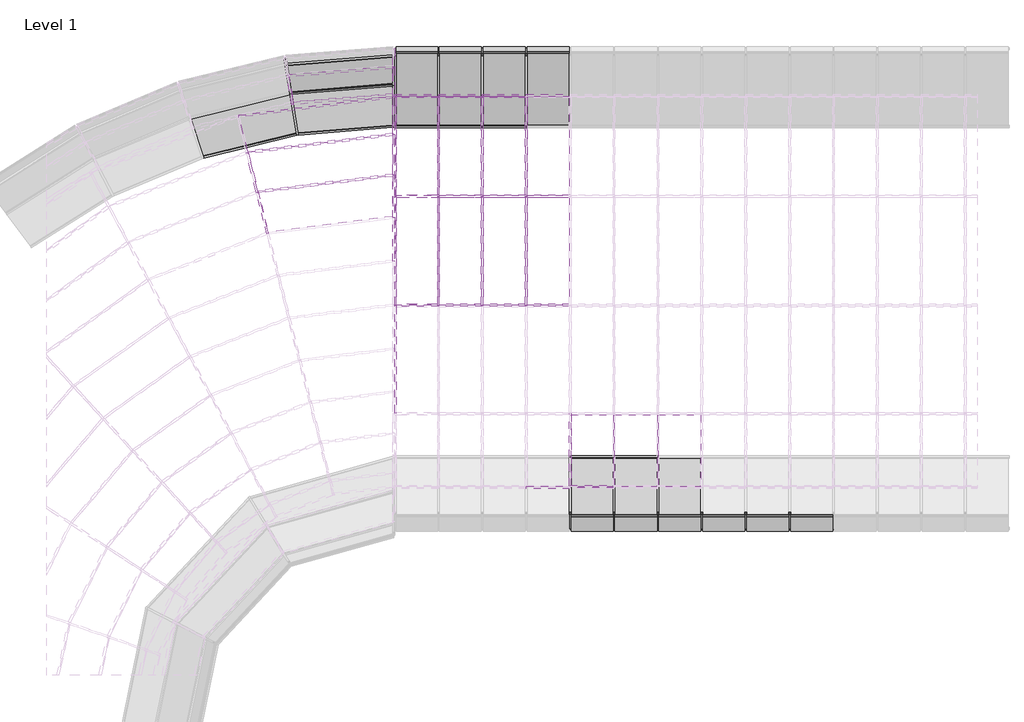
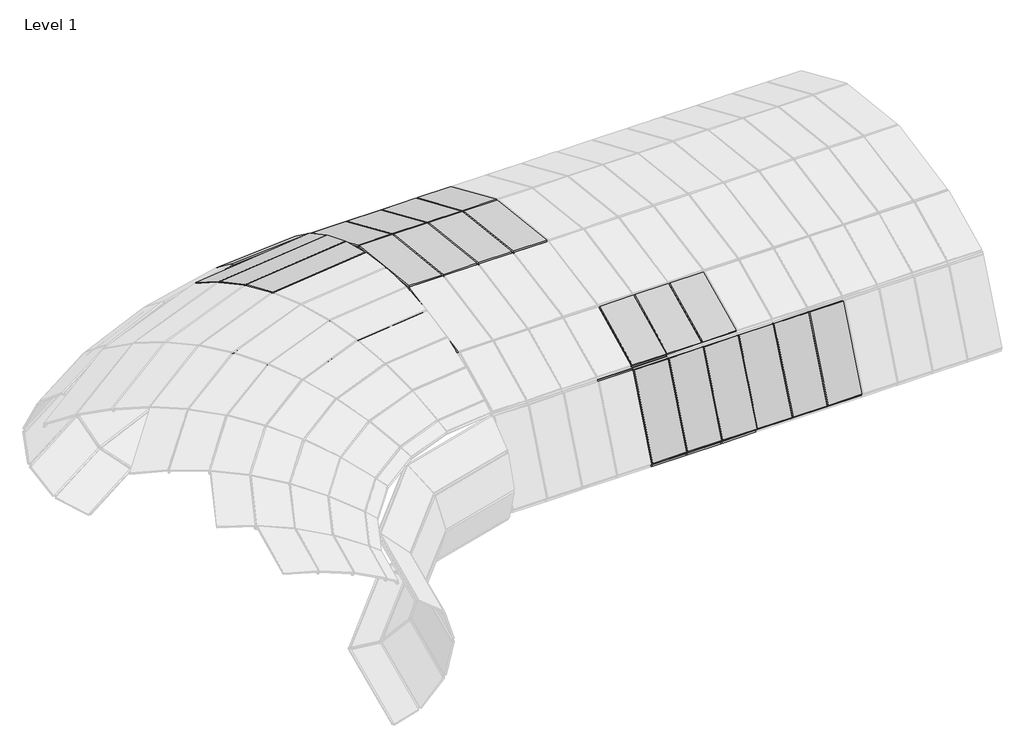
# One storey, part 17 of 23: 73 members, 35 plates.
"""IFC4 building model written with IfcOpenShell, lengths in millimetres."""

from ifc_helpers import new_model, si_unit, origin, place, context, project, spatial, transform, mapped, element, save
from components import member_d6b8231b, member_8c9da58c, member_01ebdf2a, member_0cd36c09, member_ca6af547, member_e3cda178, member_5c7fdabc, member_b799f41d, member_12ee2c91, member_00f58b5b, member_447cb305, member_9c203333, member_b8d5ad2c, member_f15ee7b7, member_0b29da72, member_7a2ca0a4, member_a86ed3bc, member_8df4d526, member_e6283771, member_0f8f75f6, member_68981e21, member_3e1f1dd8, member_42213d33, member_14e241b9, member_67cfadff, member_309acb9e, member_1d69e541, member_3d0f16ec, member_25f397f4, member_f53a45b1, system_panel_glazed_d6782710, system_panel_glazed_6d413ca7, system_panel_glazed_de08f358, system_panel_glazed_5e4e3dcc, system_panel_glazed_020edd5b, system_panel_glazed_42d38d67, system_panel_glazed_22f21378, system_panel_glazed_efc33f1d, system_panel_glazed_acb1330b, system_panel_glazed_36155e08, system_panel_glazed_4484050c, system_panel_glazed_e9ed01da, system_panel_glazed_e96a6bf3, system_panel_glazed_a8ce3bc7

model = new_model("IFC4")

# Units and contexts
model_context = context("Model", 3, world=origin())
ifc_project = project(units=[si_unit("LENGTHUNIT", "METRE", prefix="MILLI")], contexts=[model_context])

# Site, building, storey
site = spatial("IfcSite", under=ifc_project)
building = spatial("IfcBuilding", under=site)
storey = spatial("IfcBuildingStorey", under=building, Name="Level 1", Elevation=0.0)

# Members
placement = place(None, origin())
member_shape = member_d6b8231b(model_context)
element("IfcMember", 1, ObjectType="Rectangular Mullion : 1\" Square", at=placement, inside=storey, context=model_context, shape_type="MappedRepresentation", body=[
    mapped(member_shape, transform((-11262.1951697, 7003.5720267, 0.0), x_axis=(-0.9871948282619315, -0.1595191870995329, 0.0), y_axis=(-0.04471285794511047, 0.2767084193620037, -0.9599131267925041), z_axis=(0.15312456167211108, -0.9476212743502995, -0.2802976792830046))),
])
member_2_shape = member_8c9da58c(model_context)
element("IfcMember", 2, ObjectType="Rectangular Mullion : 1\" Square", at=placement, inside=storey, context=model_context, shape_type="MappedRepresentation", body=[
    mapped(member_2_shape, transform((-11355.5399025, 7581.2419556, 170.8694653), x_axis=(-0.9871948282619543, -0.15951918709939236, 0.0), y_axis=(-0.12008679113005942, 0.7431648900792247, -0.6582439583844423), z_axis=(0.10500254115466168, -0.6498150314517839, -0.7528046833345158))),
])
element("IfcMember", 3, ObjectType="Rectangular Mullion : 1\" Square", at=placement, inside=storey, context=model_context, shape_type="MappedRepresentation", body=[
    mapped(member_2_shape, transform((-11419.5494516, 7977.3691988, 629.7792003), x_axis=(-0.9871948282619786, -0.1595191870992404, 0.0), y_axis=(-0.15772138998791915, 0.9760690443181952, -0.14971033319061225), z_axis=(0.02388167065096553, -0.14779326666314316, -0.9887299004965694))),
])
member_3_shape = member_01ebdf2a(model_context)
element("IfcMember", 4, ObjectType="Rectangular Mullion : 1\" Square", at=placement, inside=storey, context=model_context, shape_type="MappedRepresentation", body=[
    mapped(member_3_shape, transform((-11394.6395168, 7823.2124528, 1789.6405438), x_axis=(-0.9871948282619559, -0.15951918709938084, 0.0), y_axis=(-0.09505110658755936, 0.5882299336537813, 0.803088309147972), z_axis=(-0.12810799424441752, 0.792804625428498, -0.5958600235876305))),
])
member_4_shape = member_0cd36c09(model_context)
element("IfcMember", 5, ObjectType="Rectangular Mullion : 1\" Square", at=placement, inside=storey, context=model_context, shape_type="MappedRepresentation", body=[
    mapped(member_4_shape, transform((-11960.0978083, 6753.8619304, 2378.3537392), x_axis=(-0.9695168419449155, -0.24502467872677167, 0.0), y_axis=(-0.09124079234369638, 0.36102275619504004, 0.9280828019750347), z_axis=(-0.2274031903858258, 0.899791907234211, -0.37237388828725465))),
])
element("IfcMember", 6, ObjectType="Rectangular Mullion : 1\" Square", at=placement, inside=storey, context=model_context, shape_type="MappedRepresentation", body=[
    mapped(member_4_shape, transform((-11821.4728235, 6205.3487837, 2605.3528615), x_axis=(-0.9695168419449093, -0.24502467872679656, 0.0), y_axis=(-0.06351674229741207, 0.25132387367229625, 0.9658167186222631), z_axis=(-0.23664893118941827, 0.9363755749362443, -0.25922589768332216))),
])
member_5_shape = member_ca6af547(model_context)
element("IfcMember", 7, ObjectType="Rectangular Mullion : 1\" Square", at=placement, inside=storey, context=model_context, shape_type="MappedRepresentation", body=[
    mapped(member_5_shape, transform((-9912.9499814, 5250.6348627, 2850.17796), x_axis=(0.9998431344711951, 0.002521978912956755, 0.017531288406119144), y_axis=(-0.017711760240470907, 0.14236774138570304, 0.9896553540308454), z_axis=(0.0, -0.9898106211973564, 0.1423900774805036))),
])
member_6_shape = member_e3cda178(model_context)
element("IfcMember", 8, ObjectType="Rectangular Mullion : 1\" Square", at=placement, inside=storey, context=model_context, shape_type="MappedRepresentation", body=[
    mapped(member_6_shape, transform((-11947.494964, 6755.4298316, 2378.3537392), x_axis=(0.11179864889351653, -0.8986414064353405, 0.424198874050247), y_axis=(-0.0523702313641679, 0.4209537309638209, 0.9055690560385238), z_axis=(-0.9923499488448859, -0.12345679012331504, 0.0))),
])
member_7_shape = member_5c7fdabc(model_context)
element("IfcMember", 9, ObjectType="Rectangular Mullion : 1\" Square", at=placement, inside=storey, context=model_context, shape_type="MappedRepresentation", body=[
    mapped(member_7_shape, transform((-11808.8699791, 6206.916685, 2605.3528615), x_axis=(0.1172140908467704, -0.9421709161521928, 0.3139662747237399), y_axis=(-0.03876126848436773, 0.31156441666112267, 0.9494341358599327), z_axis=(-0.9923499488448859, -0.12345679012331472, 0.0))),
])
member_8_shape = member_b799f41d(model_context)
element("IfcMember", 10, ObjectType="Rectangular Mullion : 1\" Square", at=placement, inside=storey, context=model_context, shape_type="MappedRepresentation", body=[
    mapped(member_8_shape, transform((-9912.9499814, 7008.5445652, 2378.3537392), x_axis=(0.9982200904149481, 0.02863946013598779, 0.052310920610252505), y_axis=(-0.05963766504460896, 0.4793696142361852, 0.8755844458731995), z_axis=(0.0, -0.8771456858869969, 0.4802243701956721))),
])
member_9_shape = member_12ee2c91(model_context)
element("IfcMember", 11, ObjectType="Rectangular Mullion : 1\" Square", at=placement, inside=storey, context=model_context, shape_type="MappedRepresentation", body=[
    mapped(member_9_shape, transform((-9912.9499814, 6442.7852891, 2605.3528615), x_axis=(0.9989286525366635, 0.017232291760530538, 0.042948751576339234), y_axis=(-0.04627685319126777, 0.371974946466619, 0.9270885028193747), z_axis=(0.0, -0.9280828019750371, 0.3723738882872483))),
])
member_10_shape = member_00f58b5b(model_context)
element("IfcMember", 12, ObjectType="Rectangular Mullion : 1\" Square", at=placement, inside=storey, context=model_context, shape_type="MappedRepresentation", body=[
    mapped(member_10_shape, transform((-9912.9499814, 5854.0234174, 2763.3769688), x_axis=(0.9994803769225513, 0.008355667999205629, 0.031131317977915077), y_axis=(-0.03223315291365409, 0.259091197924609, 0.9653148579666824), z_axis=(0.0, -0.9658167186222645, 0.25922589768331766))),
])
member_11_shape = member_447cb305(model_context)
element("IfcMember", 13, ObjectType="Rectangular Mullion : 1\" Square", at=placement, inside=storey, context=model_context, shape_type="MappedRepresentation", body=[
    mapped(member_11_shape, transform((-9938.1556701, 7540.1167728, 2085.6089632), x_axis=(-0.10809684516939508, 0.868886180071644, -0.48306508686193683), y_axis=(-0.05963766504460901, 0.4793696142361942, 0.8755844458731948), z_axis=(0.9923499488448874, 0.12345679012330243, 0.0))),
])
member_12_shape = member_9c203333(model_context)
element("IfcMember", 14, ObjectType="Rectangular Mullion : 1\" Square", at=placement, inside=storey, context=model_context, shape_type="MappedRepresentation", body=[
    mapped(member_12_shape, transform((-11274.5302395, 7000.5494364, 0.0), x_axis=(0.2284007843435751, -0.9320944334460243, -0.2811281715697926), y_axis=(-0.06690829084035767, 0.27305004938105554, -0.9596702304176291), z_axis=(0.9712653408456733, 0.2379992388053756, 0.0))),
])
member_13_shape = member_b8d5ad2c(model_context)
element("IfcMember", 15, ObjectType="Rectangular Mullion : 1\" Square", at=placement, inside=storey, context=model_context, shape_type="MappedRepresentation", body=[
    mapped(member_13_shape, transform((-11342.8806242, 7582.2581608, 170.8694653), x_axis=(-0.06753687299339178, 0.8413340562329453, 0.5362795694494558), y_axis=(-0.042911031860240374, 0.534560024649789, -0.8440404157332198), z_axis=(-0.9967935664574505, -0.08001616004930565, 0.0))),
])
member_14_shape = member_f15ee7b7(model_context)
element("IfcMember", 16, ObjectType="Rectangular Mullion : 1\" Square", at=placement, inside=storey, context=model_context, shape_type="MappedRepresentation", body=[
    mapped(member_14_shape, transform((-9938.268538, 7109.8483199, 0.0), x_axis=(0.07678912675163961, -0.956593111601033, -0.28112817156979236), y_axis=(-0.02249479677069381, 0.2802267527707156, -0.9596702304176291), z_axis=(0.9967935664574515, 0.08001616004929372, 0.0))),
])
member_15_shape = member_0b29da72(model_context)
element("IfcMember", 17, ObjectType="Rectangular Mullion : 1\" Square", at=placement, inside=storey, context=model_context, shape_type="MappedRepresentation", body=[
    mapped(member_15_shape, transform((-11406.8901733, 7978.385404, 629.7792003), x_axis=(-0.033789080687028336, 0.42092420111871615, 0.9064662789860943), y_axis=(-0.07253195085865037, 0.9035597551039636, -0.4222782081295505), z_axis=(-0.9967935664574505, -0.08001616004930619, 0.0))),
])
member_16_shape = member_7a2ca0a4(model_context)
element("IfcMember", 18, ObjectType="Rectangular Mullion : 1\" Square", at=placement, inside=storey, context=model_context, shape_type="MappedRepresentation", body=[
    mapped(member_16_shape, transform((-11381.9802385, 7824.2286581, 1789.6405438), x_axis=(0.05180238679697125, -0.6453232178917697, 0.762151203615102), y_axis=(-0.06098441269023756, 0.759707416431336, 0.647399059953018), z_axis=(-0.9967935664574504, -0.08001616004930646, 0.0))),
])
member_17_shape = member_a86ed3bc(model_context)
element("IfcMember", 19, ObjectType="Rectangular Mullion : 1\" Square", at=placement, inside=storey, context=model_context, shape_type="MappedRepresentation", body=[
    mapped(member_17_shape, transform((-9912.9499814, 7697.0437724, 170.8694653), x_axis=(0.9997469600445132, 0.006305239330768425, -0.021593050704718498), y_axis=(-0.02249479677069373, 0.28022675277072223, -0.9596702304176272), z_axis=(0.0, 0.9599131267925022, 0.2802976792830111))),
])
member_18_shape = member_8df4d526(model_context)
element("IfcMember", 20, ObjectType="Rectangular Mullion : 1\" Square", at=placement, inside=storey, context=model_context, shape_type="MappedRepresentation", body=[
    mapped(member_18_shape, transform((-9912.9499814, 7942.1529346, 1789.6405438), x_axis=(0.9973196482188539, 0.06687018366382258, 0.029696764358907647), y_axis=(-0.07316774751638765, 0.9114801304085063, 0.40478445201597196), z_axis=(0.0, -0.4058723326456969, 0.9139297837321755))),
])
member_19_shape = member_e6283771(model_context)
element("IfcMember", 21, ObjectType="Rectangular Mullion : 1\" Square", at=placement, inside=storey, context=model_context, shape_type="MappedRepresentation", body=[
    mapped(member_19_shape, transform((-11318.3479775, 7430.4362864, 2085.6089632), x_axis=(0.06418665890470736, -0.7995990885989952, 0.5970941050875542), y_axis=(-0.047777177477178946, 0.5951795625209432, 0.8021711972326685), z_axis=(-0.9967935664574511, -0.08001616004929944, 0.0))),
])
member_20_shape = member_0f8f75f6(model_context)
element("IfcMember", 22, ObjectType="Rectangular Mullion : 1\" Square", at=placement, inside=storey, context=model_context, shape_type="MappedRepresentation", body=[
    mapped(member_20_shape, transform((-6864.9499814, 2518.7804857, 14.1400027), x_axis=(1.0, 0.0, 0.0), y_axis=(0.0, -0.5566930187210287, -0.8307182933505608), z_axis=(0.0, 0.8307182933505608, -0.5566930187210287))),
])
element("IfcMember", 23, ObjectType="Rectangular Mullion : 1\" Square", at=placement, inside=storey, context=model_context, shape_type="MappedRepresentation", body=[
    mapped(member_20_shape, transform((-6255.3499814, 2518.7804857, 14.1400027), x_axis=(1.0, 0.0, 0.0), y_axis=(0.0, -0.5566930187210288, -0.8307182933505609), z_axis=(0.0, 0.8307182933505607, -0.5566930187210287))),
])
element("IfcMember", 24, ObjectType="Rectangular Mullion : 1\" Square", at=placement, inside=storey, context=model_context, shape_type="MappedRepresentation", body=[
    mapped(member_20_shape, transform((-7474.5499814, 2518.7804857, 14.1400027), x_axis=(1.0, 0.0, 0.0), y_axis=(0.0, -0.5566930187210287, -0.8307182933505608), z_axis=(0.0, 0.8307182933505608, -0.5566930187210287))),
])
member_21_shape = member_68981e21(model_context)
element("IfcMember", 25, ObjectType="Rectangular Mullion : 1\" Square", at=placement, inside=storey, context=model_context, shape_type="MappedRepresentation", body=[
    mapped(member_21_shape, transform((-7474.5499814, 2539.8807303, 0.0), x_axis=(0.0, 0.8307182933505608, -0.5566930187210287), y_axis=(0.0, -0.5566930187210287, -0.8307182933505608), z_axis=(-1.0, 0.0, 0.0))),
])
element("IfcMember", 26, ObjectType="Rectangular Mullion : 1\" Square", at=placement, inside=storey, context=model_context, shape_type="MappedRepresentation", body=[
    mapped(member_21_shape, transform((-6864.9499814, 2539.8807303, 0.0), x_axis=(0.0, 0.8307182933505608, -0.5566930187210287), y_axis=(0.0, -0.5566930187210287, -0.8307182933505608), z_axis=(-1.0, 0.0, 0.0))),
])
element("IfcMember", 27, ObjectType="Rectangular Mullion : 1\" Square", at=placement, inside=storey, context=model_context, shape_type="MappedRepresentation", body=[
    mapped(member_21_shape, transform((-7474.5499814, 2108.5088854, 2085.6089632), x_axis=(0.0, -0.9009025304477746, -0.4340214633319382), y_axis=(0.0, -0.4340214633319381, 0.9009025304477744), z_axis=(-1.0, 0.0, 0.0))),
])
element("IfcMember", 28, ObjectType="Rectangular Mullion : 1\" Square", at=placement, inside=storey, context=model_context, shape_type="MappedRepresentation", body=[
    mapped(member_21_shape, transform((-8693.7499814, 7543.2525753, 2085.6089632), x_axis=(0.0, 0.9167487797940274, -0.39946423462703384), y_axis=(0.0, 0.39946423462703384, 0.9167487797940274), z_axis=(1.0, 0.0, 0.0))),
])
element("IfcMember", 29, ObjectType="Rectangular Mullion : 1\" Square", at=placement, inside=storey, context=model_context, shape_type="MappedRepresentation", body=[
    mapped(member_21_shape, transform((-8084.1499814, 7543.2525753, 2085.6089632), x_axis=(0.0, 0.9167487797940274, -0.39946423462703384), y_axis=(0.0, 0.39946423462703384, 0.9167487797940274), z_axis=(1.0, 0.0, 0.0))),
])
element("IfcMember", 30, ObjectType="Rectangular Mullion : 1\" Square", at=placement, inside=storey, context=model_context, shape_type="MappedRepresentation", body=[
    mapped(member_21_shape, transform((-8084.1499814, 7111.8807303, 0.0), x_axis=(0.0, -0.713412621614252, -0.7007441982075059), y_axis=(0.0, 0.7007441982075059, -0.713412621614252), z_axis=(1.0, 0.0, 0.0))),
])
element("IfcMember", 31, ObjectType="Rectangular Mullion : 1\" Square", at=placement, inside=storey, context=model_context, shape_type="MappedRepresentation", body=[
    mapped(member_21_shape, transform((-8693.7499814, 7111.8807303, 0.0), x_axis=(0.0, -0.713412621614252, -0.7007441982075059), y_axis=(0.0, 0.7007441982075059, -0.713412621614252), z_axis=(1.0, 0.0, 0.0))),
])
member_22_shape = member_3e1f1dd8(model_context)
element("IfcMember", 32, ObjectType="Rectangular Mullion : 1\" Square", at=placement, inside=storey, context=model_context, shape_type="MappedRepresentation", body=[
    mapped(member_22_shape, transform((-7474.5499814, 1534.1192339, 673.9955146), x_axis=(0.0, 0.38018576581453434, -0.9249101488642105), y_axis=(0.0, -0.9249101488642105, -0.38018576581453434), z_axis=(-1.0, 0.0, 0.0))),
])
element("IfcMember", 33, ObjectType="Rectangular Mullion : 1\" Square", at=placement, inside=storey, context=model_context, shape_type="MappedRepresentation", body=[
    mapped(member_22_shape, transform((-6864.9499814, 1534.1192339, 673.9955146), x_axis=(0.0, 0.38018576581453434, -0.9249101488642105), y_axis=(0.0, -0.9249101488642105, -0.38018576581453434), z_axis=(-1.0, 0.0, 0.0))),
])
element("IfcMember", 34, ObjectType="Rectangular Mullion : 1\" Square", at=placement, inside=storey, context=model_context, shape_type="MappedRepresentation", body=[
    mapped(member_22_shape, transform((-6255.3499814, 1534.1192339, 673.9955146), x_axis=(0.0, 0.38018576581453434, -0.9249101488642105), y_axis=(0.0, -0.9249101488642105, -0.38018576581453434), z_axis=(-1.0, 0.0, 0.0))),
])
element("IfcMember", 35, ObjectType="Rectangular Mullion : 1\" Square", at=placement, inside=storey, context=model_context, shape_type="MappedRepresentation", body=[
    mapped(member_22_shape, transform((-5645.7499814, 1534.1192339, 673.9955146), x_axis=(0.0, 0.38018576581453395, -0.9249101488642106), y_axis=(0.0, -0.9249101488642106, -0.38018576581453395), z_axis=(-1.0, 0.0, 0.0))),
])
element("IfcMember", 36, ObjectType="Rectangular Mullion : 1\" Square", at=placement, inside=storey, context=model_context, shape_type="MappedRepresentation", body=[
    mapped(member_22_shape, transform((-5036.1499814, 1534.1192339, 673.9955146), x_axis=(0.0, 0.38018576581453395, -0.9249101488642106), y_axis=(0.0, -0.9249101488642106, -0.38018576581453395), z_axis=(-1.0, 0.0, 0.0))),
])
element("IfcMember", 37, ObjectType="Rectangular Mullion : 1\" Square", at=placement, inside=storey, context=model_context, shape_type="MappedRepresentation", body=[
    mapped(member_22_shape, transform((-4426.5499814, 1534.1192339, 673.9955146), x_axis=(0.0, 0.38018576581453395, -0.9249101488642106), y_axis=(0.0, -0.9249101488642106, -0.38018576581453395), z_axis=(-1.0, 0.0, 0.0))),
])
element("IfcMember", 38, ObjectType="Rectangular Mullion : 1\" Square", at=placement, inside=storey, context=model_context, shape_type="MappedRepresentation", body=[
    mapped(member_22_shape, transform((-9303.3499814, 4631.6132499, 2864.1651971), x_axis=(0.0, -0.9992773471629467, -0.038010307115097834), y_axis=(0.0, -0.038010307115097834, 0.9992773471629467), z_axis=(-1.0, 0.0, 0.0))),
])
element("IfcMember", 39, ObjectType="Rectangular Mullion : 1\" Square", at=placement, inside=storey, context=model_context, shape_type="MappedRepresentation", body=[
    mapped(member_22_shape, transform((-8693.7499814, 4631.6132499, 2864.1651971), x_axis=(0.0, -0.9992773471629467, -0.038010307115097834), y_axis=(0.0, -0.038010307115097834, 0.9992773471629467), z_axis=(-1.0, 0.0, 0.0))),
])
element("IfcMember", 40, ObjectType="Rectangular Mullion : 1\" Square", at=placement, inside=storey, context=model_context, shape_type="MappedRepresentation", body=[
    mapped(member_22_shape, transform((-8084.1499814, 4631.6132499, 2864.1651971), x_axis=(0.0, -0.9992773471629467, -0.038010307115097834), y_axis=(0.0, -0.038010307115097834, 0.9992773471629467), z_axis=(-1.0, 0.0, 0.0))),
])
element("IfcMember", 41, ObjectType="Rectangular Mullion : 1\" Square", at=placement, inside=storey, context=model_context, shape_type="MappedRepresentation", body=[
    mapped(member_22_shape, transform((-9912.9499814, 4631.6132499, 2864.1651971), x_axis=(0.0, -0.9992773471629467, -0.038010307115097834), y_axis=(0.0, -0.038010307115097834, 0.9992773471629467), z_axis=(-1.0, 0.0, 0.0))),
])
member_23_shape = member_42213d33(model_context)
element("IfcMember", 42, ObjectType="Rectangular Mullion : 1\" Square", at=placement, inside=storey, context=model_context, shape_type="MappedRepresentation", body=[
    mapped(member_23_shape, transform((-6864.9499814, 1538.9058143, 685.75896), x_axis=(1.0, 0.0, 0.0), y_axis=(0.0, -0.926255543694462, 0.3768960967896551), z_axis=(0.0, -0.37689609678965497, -0.9262555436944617))),
])
element("IfcMember", 43, ObjectType="Rectangular Mullion : 1\" Square", at=placement, inside=storey, context=model_context, shape_type="MappedRepresentation", body=[
    mapped(member_23_shape, transform((-6255.3499814, 1538.9058143, 685.75896), x_axis=(1.0, 0.0, 0.0), y_axis=(0.0, -0.926255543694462, 0.3768960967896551), z_axis=(0.0, -0.37689609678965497, -0.9262555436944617))),
])
element("IfcMember", 44, ObjectType="Rectangular Mullion : 1\" Square", at=placement, inside=storey, context=model_context, shape_type="MappedRepresentation", body=[
    mapped(member_23_shape, transform((-5645.7499814, 1538.9058143, 685.75896), x_axis=(0.9999999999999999, 0.0, 0.0), y_axis=(0.0, -0.926255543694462, 0.376896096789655), z_axis=(0.0, -0.37689609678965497, -0.9262555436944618))),
])
element("IfcMember", 45, ObjectType="Rectangular Mullion : 1\" Square", at=placement, inside=storey, context=model_context, shape_type="MappedRepresentation", body=[
    mapped(member_23_shape, transform((-5036.1499814, 1538.9058143, 685.75896), x_axis=(0.9999999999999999, 0.0, 0.0), y_axis=(0.0, -0.926255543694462, 0.376896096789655), z_axis=(0.0, -0.37689609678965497, -0.9262555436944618))),
])
element("IfcMember", 46, ObjectType="Rectangular Mullion : 1\" Square", at=placement, inside=storey, context=model_context, shape_type="MappedRepresentation", body=[
    mapped(member_23_shape, transform((-4426.5499814, 1538.9058143, 685.75896), x_axis=(0.9999999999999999, 0.0, 0.0), y_axis=(0.0, -0.926255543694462, 0.376896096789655), z_axis=(0.0, -0.37689609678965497, -0.9262555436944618))),
])
element("IfcMember", 47, ObjectType="Rectangular Mullion : 1\" Square", at=placement, inside=storey, context=model_context, shape_type="MappedRepresentation", body=[
    mapped(member_23_shape, transform((-7474.5499814, 1538.9058143, 685.75896), x_axis=(1.0, 0.0, 0.0), y_axis=(0.0, -0.926255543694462, 0.3768960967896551), z_axis=(0.0, -0.37689609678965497, -0.9262555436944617))),
])
element("IfcMember", 48, ObjectType="Rectangular Mullion : 1\" Square", at=placement, inside=storey, context=model_context, shape_type="MappedRepresentation", body=[
    mapped(member_21_shape, transform((-7474.5499814, 2108.5088854, 2085.6089632), x_axis=(0.0, 0.37689609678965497, 0.9262555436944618), y_axis=(0.0, -0.9262555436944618, 0.37689609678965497), z_axis=(1.0, 0.0, 0.0))),
])
element("IfcMember", 49, ObjectType="Rectangular Mullion : 1\" Square", at=placement, inside=storey, context=model_context, shape_type="MappedRepresentation", body=[
    mapped(member_21_shape, transform((-9303.3499814, 7543.2525753, 2085.6089632), x_axis=(0.0, -0.5417212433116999, 0.8405582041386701), y_axis=(0.0, 0.8405582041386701, 0.5417212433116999), z_axis=(-1.0, 0.0, 0.0))),
])
element("IfcMember", 50, ObjectType="Rectangular Mullion : 1\" Square", at=placement, inside=storey, context=model_context, shape_type="MappedRepresentation", body=[
    mapped(member_21_shape, transform((-8693.7499814, 7543.2525753, 2085.6089632), x_axis=(0.0, -0.5417212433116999, 0.8405582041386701), y_axis=(0.0, 0.8405582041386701, 0.5417212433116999), z_axis=(-1.0, 0.0, 0.0))),
])
element("IfcMember", 51, ObjectType="Rectangular Mullion : 1\" Square", at=placement, inside=storey, context=model_context, shape_type="MappedRepresentation", body=[
    mapped(member_21_shape, transform((-8084.1499814, 7543.2525753, 2085.6089632), x_axis=(0.0, -0.5417212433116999, 0.8405582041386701), y_axis=(0.0, 0.8405582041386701, 0.5417212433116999), z_axis=(-1.0, 0.0, 0.0))),
])
element("IfcMember", 52, ObjectType="Rectangular Mullion : 1\" Square", at=placement, inside=storey, context=model_context, shape_type="MappedRepresentation", body=[
    mapped(member_22_shape, transform((-9303.3499814, 6146.1274349, 2694.3924567), x_axis=(0.0, -0.9660596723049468, 0.25831900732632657), y_axis=(0.0, 0.25831900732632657, 0.9660596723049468), z_axis=(-1.0, 0.0, 0.0))),
])
element("IfcMember", 53, ObjectType="Rectangular Mullion : 1\" Square", at=placement, inside=storey, context=model_context, shape_type="MappedRepresentation", body=[
    mapped(member_22_shape, transform((-8693.7499814, 6146.1274349, 2694.3924567), x_axis=(0.0, -0.9660596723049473, 0.25831900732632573), y_axis=(0.0, 0.2583190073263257, 0.966059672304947), z_axis=(-1.0, 0.0, 0.0))),
])
element("IfcMember", 54, ObjectType="Rectangular Mullion : 1\" Square", at=placement, inside=storey, context=model_context, shape_type="MappedRepresentation", body=[
    mapped(member_22_shape, transform((-8084.1499814, 6146.1274349, 2694.3924567), x_axis=(0.0, -0.9660596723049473, 0.25831900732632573), y_axis=(0.0, 0.2583190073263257, 0.966059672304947), z_axis=(-1.0, 0.0, 0.0))),
])
member_24_shape = member_14e241b9(model_context)
element("IfcMember", 55, ObjectType="Rectangular Mullion : 1\" Square", at=placement, inside=storey, context=model_context, shape_type="MappedRepresentation", body=[
    mapped(member_24_shape, transform((-7474.5499814, 2131.3918096, 2096.6331083), x_axis=(1.0, 0.0, 0.0), y_axis=(0.0, -0.43402146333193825, 0.9009025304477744), z_axis=(0.0, -0.9009025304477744, -0.43402146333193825))),
])
member_25_shape = member_67cfadff(model_context)
element("IfcMember", 56, ObjectType="Rectangular Mullion : 1\" Square", at=placement, inside=storey, context=model_context, shape_type="MappedRepresentation", body=[
    mapped(member_25_shape, transform((-8693.7499814, 6157.7701444, 2689.3192609), x_axis=(0.9999999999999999, 0.0, 0.0), y_axis=(0.0, 0.3994642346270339, 0.9167487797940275), z_axis=(0.0, -0.9167487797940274, 0.39946423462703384))),
])
element("IfcMember", 57, ObjectType="Rectangular Mullion : 1\" Square", at=placement, inside=storey, context=model_context, shape_type="MappedRepresentation", body=[
    mapped(member_25_shape, transform((-9303.3499814, 6157.7701444, 2689.3192609), x_axis=(1.0, 0.0, 0.0), y_axis=(0.0, 0.3994642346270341, 0.9167487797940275), z_axis=(0.0, -0.9167487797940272, 0.399464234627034))),
])
element("IfcMember", 58, ObjectType="Rectangular Mullion : 1\" Square", at=placement, inside=storey, context=model_context, shape_type="MappedRepresentation", body=[
    mapped(member_25_shape, transform((-8084.1499814, 6157.7701444, 2689.3192609), x_axis=(0.9999999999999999, 0.0, 0.0), y_axis=(0.0, 0.3994642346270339, 0.9167487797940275), z_axis=(0.0, -0.9167487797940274, 0.39946423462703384))),
])
member_26_shape = member_309acb9e(model_context)
element("IfcMember", 59, ObjectType="Rectangular Mullion : 1\" Square", at=placement, inside=storey, context=model_context, shape_type="MappedRepresentation", body=[
    mapped(member_26_shape, transform((-8693.7499814, 4644.2342014, 2862.7504243), x_axis=(0.9999999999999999, 0.0, 0.0), y_axis=(0.0, 0.1113994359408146, 0.9937757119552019), z_axis=(0.0, -0.9937757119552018, 0.11139943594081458))),
])
element("IfcMember", 60, ObjectType="Rectangular Mullion : 1\" Square", at=placement, inside=storey, context=model_context, shape_type="MappedRepresentation", body=[
    mapped(member_26_shape, transform((-9303.3499814, 4644.2342014, 2862.7504243), x_axis=(0.9999999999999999, 0.0, 0.0), y_axis=(0.0, 0.11139943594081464, 0.9937757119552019), z_axis=(0.0, -0.9937757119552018, 0.11139943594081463))),
])
element("IfcMember", 61, ObjectType="Rectangular Mullion : 1\" Square", at=placement, inside=storey, context=model_context, shape_type="MappedRepresentation", body=[
    mapped(member_26_shape, transform((-8084.1499814, 4644.2342014, 2862.7504243), x_axis=(0.9999999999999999, 0.0, 0.0), y_axis=(0.0, 0.1113994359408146, 0.9937757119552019), z_axis=(0.0, -0.9937757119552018, 0.11139943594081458))),
])
element("IfcMember", 62, ObjectType="Rectangular Mullion : 1\" Square", at=placement, inside=storey, context=model_context, shape_type="MappedRepresentation", body=[
    mapped(member_21_shape, transform((-9303.3499814, 7543.2525753, 2085.6089632), x_axis=(0.0, 0.9167487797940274, -0.3994642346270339), y_axis=(0.0, 0.3994642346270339, 0.9167487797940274), z_axis=(1.0, 0.0, 0.0))),
])
element("IfcMember", 63, ObjectType="Rectangular Mullion : 1\" Square", at=placement, inside=storey, context=model_context, shape_type="MappedRepresentation", body=[
    mapped(member_21_shape, transform((-9303.3499814, 7111.8807303, 0.0), x_axis=(0.0, -0.713412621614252, -0.7007441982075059), y_axis=(0.0, 0.7007441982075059, -0.713412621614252), z_axis=(1.0, 0.0, 0.0))),
])
element("IfcMember", 64, ObjectType="Rectangular Mullion : 1\" Square", at=placement, inside=storey, context=model_context, shape_type="MappedRepresentation", body=[
    mapped(member_22_shape, transform((-9912.9499814, 6146.1274349, 2694.3924567), x_axis=(0.0, -0.9660596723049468, 0.25831900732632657), y_axis=(0.0, 0.25831900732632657, 0.9660596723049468), z_axis=(-1.0, 0.0, 0.0))),
])
member_27_shape = member_1d69e541(model_context)
element("IfcMember", 65, ObjectType="Rectangular Mullion : 1\" Square", at=placement, inside=storey, context=model_context, shape_type="MappedRepresentation", body=[
    mapped(member_27_shape, transform((-9912.9499814, 6133.5064834, 2695.8072296), x_axis=(-1.0, 0.0, 0.0), y_axis=(0.0, 0.11139943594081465, 0.993775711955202), z_axis=(0.0, 0.9937757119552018, -0.11139943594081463))),
])
element("IfcMember", 66, ObjectType="Rectangular Mullion : 1\" Square", at=placement, inside=storey, context=model_context, shape_type="MappedRepresentation", body=[
    mapped(member_27_shape, transform((-9912.9499814, 4619.1362416, 2861.7957532), x_axis=(-1.0, 0.0, 0.0), y_axis=(0.0, -0.18657038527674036, 0.9824415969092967), z_axis=(0.0, 0.9824415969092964, 0.18657038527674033))),
])
member_28_shape = member_3d0f16ec(model_context)
element("IfcMember", 67, ObjectType="Rectangular Mullion : 1\" Square", at=placement, inside=storey, context=model_context, shape_type="MappedRepresentation", body=[
    mapped(member_28_shape, transform((-9912.9499814, 7519.9671563, 2095.7553547), x_axis=(-1.0, 0.0, 0.0), y_axis=(0.0, 0.3994642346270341, 0.9167487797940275), z_axis=(0.0, 0.9167487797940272, -0.399464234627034))),
])
element("IfcMember", 68, ObjectType="Rectangular Mullion : 1\" Square", at=placement, inside=storey, context=model_context, shape_type="MappedRepresentation", body=[
    mapped(member_20_shape, transform((-8084.1499814, 7557.0122949, 2064.2587848), x_axis=(1.0, 0.0, 0.0), y_axis=(0.0, 0.8405582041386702, 0.5417212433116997), z_axis=(0.0, -0.5417212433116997, 0.8405582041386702))),
])
element("IfcMember", 69, ObjectType="Rectangular Mullion : 1\" Square", at=placement, inside=storey, context=model_context, shape_type="MappedRepresentation", body=[
    mapped(member_20_shape, transform((-8693.7499814, 7557.0122949, 2064.2587848), x_axis=(1.0, 0.0, 0.0), y_axis=(0.0, 0.8405582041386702, 0.5417212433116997), z_axis=(0.0, -0.5417212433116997, 0.8405582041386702))),
])
element("IfcMember", 70, ObjectType="Rectangular Mullion : 1\" Square", at=placement, inside=storey, context=model_context, shape_type="MappedRepresentation", body=[
    mapped(member_20_shape, transform((-9303.3499814, 7557.0122949, 2064.2587848), x_axis=(1.0, 0.0, 0.0), y_axis=(0.0, 0.8405582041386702, 0.5417212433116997), z_axis=(0.0, -0.5417212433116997, 0.8405582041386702))),
])
member_29_shape = member_25f397f4(model_context)
element("IfcMember", 71, ObjectType="Rectangular Mullion : 1\" Square", at=placement, inside=storey, context=model_context, shape_type="MappedRepresentation", body=[
    mapped(member_29_shape, transform((-9912.9499814, 7130.0014109, 17.7989026), x_axis=(-1.0, 0.0, 0.0), y_axis=(0.0, 0.7007441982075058, -0.713412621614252), z_axis=(0.0, -0.713412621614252, -0.7007441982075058))),
])
element("IfcMember", 72, ObjectType="Rectangular Mullion : 1\" Square", at=placement, inside=storey, context=model_context, shape_type="MappedRepresentation", body=[
    mapped(member_21_shape, transform((-9912.9499814, 7543.2525753, 2085.6089632), x_axis=(0.0, -0.5417212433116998, 0.8405582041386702), y_axis=(0.0, 0.8405582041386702, 0.5417212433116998), z_axis=(-1.0, 0.0, 0.0))),
])
member_30_shape = member_f53a45b1(model_context)
element("IfcMember", 73, ObjectType="Rectangular Mullion : 1\" Square", at=placement, inside=storey, context=model_context, shape_type="MappedRepresentation", body=[
    mapped(member_30_shape, transform((-9912.9499814, 7543.2525753, 2085.6089632), x_axis=(0.998858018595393, 0.02846851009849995, 0.03836929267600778), y_axis=(-0.04777717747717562, 0.595179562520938, 0.8021711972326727), z_axis=(0.0, -0.8030883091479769, 0.5958600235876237))),
])

# Plates
system_panel_glazed_shape = system_panel_glazed_d6782710(model_context)
element("IfcPlate", 74, ObjectType="System Panel : Glazed", at=placement, inside=storey, context=model_context, shape_type="MappedRepresentation", body=[
    mapped(system_panel_glazed_shape, transform((-11005.6252618, 7384.9031665, 2097.8788164), x_axis=(-0.9923499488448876, -0.12345679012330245, 0.0), y_axis=(0.059637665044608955, -0.4793696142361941, -0.8755844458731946), z_axis=(0.10809684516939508, -0.868886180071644, 0.48306508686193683))),
])
system_panel_glazed_2_shape = system_panel_glazed_6d413ca7(model_context)
element("IfcPlate", 75, ObjectType="System Panel : Glazed", at=placement, inside=storey, context=model_context, shape_type="MappedRepresentation", body=[
    mapped(system_panel_glazed_2_shape, transform((-10941.4135086, 6868.7301479, 2383.1142391), x_axis=(-0.9923499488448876, -0.12345679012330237, 0.0), y_axis=(0.04627685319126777, -0.3719749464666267, -0.9270885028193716), z_axis=(0.11445537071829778, -0.9199962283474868, 0.3748425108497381))),
])
system_panel_glazed_3_shape = system_panel_glazed_de08f358(model_context)
element("IfcPlate", 76, ObjectType="System Panel : Glazed", at=placement, inside=storey, context=model_context, shape_type="MappedRepresentation", body=[
    mapped(system_panel_glazed_3_shape, transform((-10872.0445845, 6311.1117399, 2608.668686), x_axis=(-0.9923499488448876, -0.12345679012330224, 0.0), y_axis=(0.03223315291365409, -0.2590911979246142, -0.9653148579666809), z_axis=(0.11917467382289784, -0.9579301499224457, 0.26108853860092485))),
])
system_panel_glazed_4_shape = system_panel_glazed_5e4e3dcc(model_context)
element("IfcPlate", 77, ObjectType="System Panel : Glazed", at=placement, inside=storey, context=model_context, shape_type="MappedRepresentation", body=[
    mapped(system_panel_glazed_4_shape, transform((-10595.8714126, 7081.5142355, 7.1406556), x_axis=(-0.9967935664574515, -0.08001616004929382, 0.0), y_axis=(0.02249479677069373, -0.2802267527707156, 0.9596702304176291), z_axis=(-0.07678912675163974, 0.956593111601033, 0.28112817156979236))),
])
system_panel_glazed_5_shape = system_panel_glazed_020edd5b(model_context)
element("IfcPlate", 78, ObjectType="System Panel : Glazed", at=placement, inside=storey, context=model_context, shape_type="MappedRepresentation", body=[
    mapped(system_panel_glazed_5_shape, transform((-11925.3418274, 6866.1710815, 7.1406556), x_axis=(-0.9712653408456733, -0.23799923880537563, 0.0), y_axis=(0.06690829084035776, -0.2730500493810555, 0.9596702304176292), z_axis=(-0.2284007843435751, 0.9320944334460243, 0.2811281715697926))),
])
system_panel_glazed_6_shape = system_panel_glazed_42d38d67(model_context)
element("IfcPlate", 79, ObjectType="System Panel : Glazed", at=placement, inside=storey, context=model_context, shape_type="MappedRepresentation", body=[
    mapped(system_panel_glazed_6_shape, transform((-10641.251072, 7646.951775, 180.4433737), x_axis=(-0.9967935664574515, -0.08001616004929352, 0.0), y_axis=(0.06032026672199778, -0.751433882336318, 0.6570453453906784), z_axis=(-0.05257424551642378, 0.6549385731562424, 0.7538510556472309))),
])
system_panel_glazed_7_shape = system_panel_glazed_22f21378(model_context)
element("IfcPlate", 80, ObjectType="System Panel : Glazed", at=placement, inside=storey, context=model_context, shape_type="MappedRepresentation", body=[
    mapped(system_panel_glazed_7_shape, transform((-10659.3223269, 7872.0186303, 1797.2236389), x_axis=(-0.9967935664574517, -0.08001616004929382, 0.0), y_axis=(0.047777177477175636, -0.5951795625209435, -0.8021711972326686), z_axis=(0.0641866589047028, -0.7995990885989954, 0.5970941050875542))),
])
system_panel_glazed_8_shape = system_panel_glazed_efc33f1d(model_context)
element("IfcPlate", 81, ObjectType="System Panel : Glazed", at=placement, inside=storey, context=model_context, shape_type="MappedRepresentation", body=[
    mapped(system_panel_glazed_8_shape, transform((-9887.5499814, 6838.8686503, 2392.5373078), x_axis=(0.0, -0.9167487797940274, 0.3994642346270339), y_axis=(0.0, -0.3994642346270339, -0.9167487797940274), z_axis=(1.0, 0.0, 0.0))),
])
element("IfcPlate", 82, ObjectType="System Panel : Glazed", at=placement, inside=storey, context=model_context, shape_type="MappedRepresentation", body=[
    mapped(system_panel_glazed_8_shape, transform((-9887.5499814, 7660.0313181, 538.4168047), x_axis=(0.0, 0.713412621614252, 0.7007441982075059), y_axis=(0.0, -0.7007441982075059, 0.713412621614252), z_axis=(1.0, 0.0, 0.0))),
])
system_panel_glazed_9_shape = system_panel_glazed_acb1330b(model_context)
element("IfcPlate", 83, ObjectType="System Panel : Glazed", at=placement, inside=storey, context=model_context, shape_type="MappedRepresentation", body=[
    mapped(system_panel_glazed_9_shape, transform((-9887.5499814, 7874.6270004, 1571.434016), x_axis=(0.0, -0.5417212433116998, 0.8405582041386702), y_axis=(0.0, -0.8405582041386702, -0.5417212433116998), z_axis=(1.0, 0.0, 0.0))),
])
system_panel_glazed_10_shape = system_panel_glazed_36155e08(model_context)
element("IfcPlate", 84, ObjectType="System Panel : Glazed", at=placement, inside=storey, context=model_context, shape_type="MappedRepresentation", body=[
    mapped(system_panel_glazed_10_shape, transform((-9290.6499814, 6838.8686503, 2392.5373078), x_axis=(0.0, -0.9167487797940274, 0.39946423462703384), y_axis=(0.0, -0.39946423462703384, -0.9167487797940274), z_axis=(1.0, 0.0, 0.0))),
])
element("IfcPlate", 85, ObjectType="System Panel : Glazed", at=placement, inside=storey, context=model_context, shape_type="MappedRepresentation", body=[
    mapped(system_panel_glazed_10_shape, transform((-8681.0499814, 6838.8686503, 2392.5373078), x_axis=(0.0, -0.9167487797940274, 0.39946423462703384), y_axis=(0.0, -0.39946423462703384, -0.9167487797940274), z_axis=(1.0, 0.0, 0.0))),
])
element("IfcPlate", 86, ObjectType="System Panel : Glazed", at=placement, inside=storey, context=model_context, shape_type="MappedRepresentation", body=[
    mapped(system_panel_glazed_10_shape, transform((-8071.4499814, 6838.8686503, 2392.5373078), x_axis=(0.0, -0.9167487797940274, 0.39946423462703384), y_axis=(0.0, -0.39946423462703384, -0.9167487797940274), z_axis=(1.0, 0.0, 0.0))),
])
element("IfcPlate", 87, ObjectType="System Panel : Glazed", at=placement, inside=storey, context=model_context, shape_type="MappedRepresentation", body=[
    mapped(system_panel_glazed_10_shape, transform((-7461.8499814, 1818.9207694, 1373.9205162), x_axis=(0.0, -0.37689609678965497, -0.9262555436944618), y_axis=(0.0, 0.9262555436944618, -0.37689609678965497), z_axis=(1.0, 0.0, 0.0))),
])
element("IfcPlate", 88, ObjectType="System Panel : Glazed", at=placement, inside=storey, context=model_context, shape_type="MappedRepresentation", body=[
    mapped(system_panel_glazed_10_shape, transform((-6852.2499814, 1818.9207694, 1373.9205162), x_axis=(0.0, -0.37689609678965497, -0.9262555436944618), y_axis=(0.0, 0.9262555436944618, -0.37689609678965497), z_axis=(1.0, 0.0, 0.0))),
])
element("IfcPlate", 89, ObjectType="System Panel : Glazed", at=placement, inside=storey, context=model_context, shape_type="MappedRepresentation", body=[
    mapped(system_panel_glazed_10_shape, transform((-6242.6499814, 1818.9207694, 1373.9205162), x_axis=(0.0, -0.37689609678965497, -0.9262555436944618), y_axis=(0.0, 0.9262555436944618, -0.37689609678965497), z_axis=(1.0, 0.0, 0.0))),
])
element("IfcPlate", 90, ObjectType="System Panel : Glazed", at=placement, inside=storey, context=model_context, shape_type="MappedRepresentation", body=[
    mapped(system_panel_glazed_10_shape, transform((-5633.0499814, 1818.9207694, 1373.9205162), x_axis=(0.0, -0.37689609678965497, -0.9262555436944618), y_axis=(0.0, 0.9262555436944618, -0.37689609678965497), z_axis=(1.0, 0.0, 0.0))),
])
element("IfcPlate", 91, ObjectType="System Panel : Glazed", at=placement, inside=storey, context=model_context, shape_type="MappedRepresentation", body=[
    mapped(system_panel_glazed_10_shape, transform((-5023.4499814, 1818.9207694, 1373.9205162), x_axis=(0.0, -0.37689609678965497, -0.9262555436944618), y_axis=(0.0, 0.9262555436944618, -0.37689609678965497), z_axis=(1.0, 0.0, 0.0))),
])
element("IfcPlate", 92, ObjectType="System Panel : Glazed", at=placement, inside=storey, context=model_context, shape_type="MappedRepresentation", body=[
    mapped(system_panel_glazed_10_shape, transform((-4413.8499814, 1818.9207694, 1373.9205162), x_axis=(0.0, -0.3768960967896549, -0.9262555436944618), y_axis=(0.0, 0.9262555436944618, -0.3768960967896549), z_axis=(1.0, 0.0, 0.0))),
])
element("IfcPlate", 93, ObjectType="System Panel : Glazed", at=placement, inside=storey, context=model_context, shape_type="MappedRepresentation", body=[
    mapped(system_panel_glazed_10_shape, transform((-9290.6499814, 7660.0313181, 538.4168047), x_axis=(0.0, 0.713412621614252, 0.7007441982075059), y_axis=(0.0, -0.7007441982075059, 0.713412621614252), z_axis=(1.0, 0.0, 0.0))),
])
element("IfcPlate", 94, ObjectType="System Panel : Glazed", at=placement, inside=storey, context=model_context, shape_type="MappedRepresentation", body=[
    mapped(system_panel_glazed_10_shape, transform((-8681.0499814, 7660.0313181, 538.4168047), x_axis=(0.0, 0.713412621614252, 0.7007441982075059), y_axis=(0.0, -0.7007441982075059, 0.713412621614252), z_axis=(1.0, 0.0, 0.0))),
])
element("IfcPlate", 95, ObjectType="System Panel : Glazed", at=placement, inside=storey, context=model_context, shape_type="MappedRepresentation", body=[
    mapped(system_panel_glazed_10_shape, transform((-8071.4499814, 7660.0313181, 538.4168047), x_axis=(0.0, 0.713412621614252, 0.7007441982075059), y_axis=(0.0, -0.7007441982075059, 0.713412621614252), z_axis=(1.0, 0.0, 0.0))),
])
system_panel_glazed_11_shape = system_panel_glazed_4484050c(model_context)
element("IfcPlate", 96, ObjectType="System Panel : Glazed", at=placement, inside=storey, context=model_context, shape_type="MappedRepresentation", body=[
    mapped(system_panel_glazed_11_shape, transform((-7461.8499814, 2031.7249209, 340.532758), x_axis=(0.0, 0.8307182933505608, -0.5566930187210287), y_axis=(0.0, 0.5566930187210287, 0.8307182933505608), z_axis=(1.0, 0.0, 0.0))),
])
element("IfcPlate", 97, ObjectType="System Panel : Glazed", at=placement, inside=storey, context=model_context, shape_type="MappedRepresentation", body=[
    mapped(system_panel_glazed_11_shape, transform((-6852.2499814, 2031.7249209, 340.532758), x_axis=(0.0, 0.8307182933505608, -0.5566930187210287), y_axis=(0.0, 0.5566930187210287, 0.8307182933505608), z_axis=(1.0, 0.0, 0.0))),
])
element("IfcPlate", 98, ObjectType="System Panel : Glazed", at=placement, inside=storey, context=model_context, shape_type="MappedRepresentation", body=[
    mapped(system_panel_glazed_11_shape, transform((-6242.6499814, 2031.7249209, 340.532758), x_axis=(0.0, 0.8307182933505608, -0.5566930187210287), y_axis=(0.0, 0.5566930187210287, 0.8307182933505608), z_axis=(1.0, 0.0, 0.0))),
])
element("IfcPlate", 99, ObjectType="System Panel : Glazed", at=placement, inside=storey, context=model_context, shape_type="MappedRepresentation", body=[
    mapped(system_panel_glazed_11_shape, transform((-9290.6499814, 7874.6270004, 1571.434016), x_axis=(0.0, -0.5417212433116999, 0.8405582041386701), y_axis=(0.0, -0.8405582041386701, -0.5417212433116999), z_axis=(1.0, 0.0, 0.0))),
])
element("IfcPlate", 100, ObjectType="System Panel : Glazed", at=placement, inside=storey, context=model_context, shape_type="MappedRepresentation", body=[
    mapped(system_panel_glazed_11_shape, transform((-8681.0499814, 7874.6270004, 1571.434016), x_axis=(0.0, -0.5417212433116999, 0.8405582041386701), y_axis=(0.0, -0.8405582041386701, -0.5417212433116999), z_axis=(1.0, 0.0, 0.0))),
])
element("IfcPlate", 101, ObjectType="System Panel : Glazed", at=placement, inside=storey, context=model_context, shape_type="MappedRepresentation", body=[
    mapped(system_panel_glazed_11_shape, transform((-8071.4499814, 7874.6270004, 1571.434016), x_axis=(0.0, -0.5417212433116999, 0.8405582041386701), y_axis=(0.0, -0.8405582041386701, -0.5417212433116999), z_axis=(1.0, 0.0, 0.0))),
])
system_panel_glazed_12_shape = system_panel_glazed_e9ed01da(model_context)
element("IfcPlate", 102, ObjectType="System Panel : Glazed", at=placement, inside=storey, context=model_context, shape_type="MappedRepresentation", body=[
    mapped(system_panel_glazed_12_shape, transform((-9887.5499814, 5388.8703424, 2779.2788269), x_axis=(0.0, -0.993775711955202, 0.11139943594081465), y_axis=(0.0, -0.11139943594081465, -0.993775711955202), z_axis=(1.0, 0.0, 0.0))),
])
system_panel_glazed_13_shape = system_panel_glazed_e96a6bf3(model_context)
element("IfcPlate", 103, ObjectType="System Panel : Glazed", at=placement, inside=storey, context=model_context, shape_type="MappedRepresentation", body=[
    mapped(system_panel_glazed_13_shape, transform((-9290.6499814, 5388.8703424, 2779.2788269), x_axis=(0.0, -0.993775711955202, 0.11139943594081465), y_axis=(0.0, -0.11139943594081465, -0.993775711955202), z_axis=(1.0, 0.0, 0.0))),
])
element("IfcPlate", 104, ObjectType="System Panel : Glazed", at=placement, inside=storey, context=model_context, shape_type="MappedRepresentation", body=[
    mapped(system_panel_glazed_13_shape, transform((-8681.0499814, 5388.8703424, 2779.2788269), x_axis=(0.0, -0.993775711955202, 0.11139943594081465), y_axis=(0.0, -0.11139943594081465, -0.993775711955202), z_axis=(1.0, 0.0, 0.0))),
])
element("IfcPlate", 105, ObjectType="System Panel : Glazed", at=placement, inside=storey, context=model_context, shape_type="MappedRepresentation", body=[
    mapped(system_panel_glazed_13_shape, transform((-8071.4499814, 5388.8703424, 2779.2788269), x_axis=(0.0, -0.993775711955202, 0.11139943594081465), y_axis=(0.0, -0.11139943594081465, -0.993775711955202), z_axis=(1.0, 0.0, 0.0))),
])
system_panel_glazed_14_shape = system_panel_glazed_a8ce3bc7(model_context)
element("IfcPlate", 106, ObjectType="System Panel : Glazed", at=placement, inside=storey, context=model_context, shape_type="MappedRepresentation", body=[
    mapped(system_panel_glazed_14_shape, transform((-7461.8499814, 2627.1613018, 2335.4764828), x_axis=(0.0, -0.9009025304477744, -0.4340214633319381), y_axis=(0.0, 0.4340214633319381, -0.9009025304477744), z_axis=(1.0, 0.0, 0.0))),
])
element("IfcPlate", 107, ObjectType="System Panel : Glazed", at=placement, inside=storey, context=model_context, shape_type="MappedRepresentation", body=[
    mapped(system_panel_glazed_14_shape, transform((-6852.2499814, 2627.1613018, 2335.4764828), x_axis=(0.0, -0.9009025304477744, -0.4340214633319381), y_axis=(0.0, 0.4340214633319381, -0.9009025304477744), z_axis=(1.0, 0.0, 0.0))),
])
element("IfcPlate", 108, ObjectType="System Panel : Glazed", at=placement, inside=storey, context=model_context, shape_type="MappedRepresentation", body=[
    mapped(system_panel_glazed_14_shape, transform((-6242.6499814, 2627.1613018, 2335.4764828), x_axis=(0.0, -0.9009025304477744, -0.4340214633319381), y_axis=(0.0, 0.4340214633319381, -0.9009025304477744), z_axis=(1.0, 0.0, 0.0))),
])

save(model, "model.ifc")
